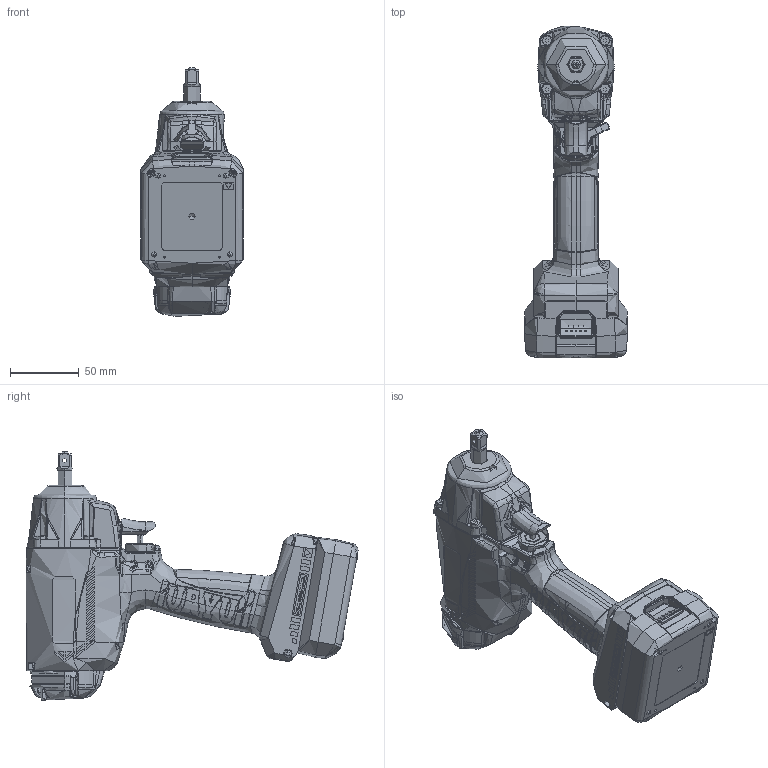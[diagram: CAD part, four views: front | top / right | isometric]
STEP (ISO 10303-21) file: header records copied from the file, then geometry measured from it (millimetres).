
FILE_DESCRIPTION (( 'STEP AP214' ), '1' );
FILE_NAME ('UBX-T50.STEP', '2023-08-18T02:51:04', ( '' ), ( '' ), 'SwSTEP 2.0', 'SolidWorks 2016', '' );
FILE_SCHEMA (( 'AUTOMOTIVE_DESIGN' ));
Length unit declared in the file: millimetre
Products named in the file (13): UBX-T50; 切換レバー_09B-212-4; UBX-T70_スイッチ基部_外観用; バッテリー_10.8V_2Ah; UBX-T70_本体L_外観用_履歴削除部品データ(T50用); バルブレバー_147-107-2; UBX-T70_主軸_外観用; フロントケースパッキン; UBX-T60フロントケース_(内径部埋める); 12F-013-0_本体上フタ_外観用; Part1^UBX-T50_外観用; UBX-T70_本体R_外観用_履歴削除部品データ; 12F-012-0_本体フタ_外観用
Assembly tree (11 placements, depth 2):
  UBX-T50
    UBX-T70_本体R_外観用_履歴削除部品データ
    UBX-T70_スイッチ基部_外観用
    バルブレバー_147-107-2
    切換レバー_09B-212-4
    UBX-T70_主軸_外観用
    12F-012-0_本体フタ_外観用
    12F-013-0_本体上フタ_外観用
    フロントケースパッキン
    UBX-T60フロントケース_(内径部埋める)
    UBX-T70_本体L_外観用_履歴削除部品データ(T50用)
    バッテリー_10.8V_2Ah
  Part1^UBX-T50_外観用
Bounding box: 74.73 x 241.07 x 180.38 mm (x, y, z)
Volume: 634658 mm3; surface area: 155671.9 mm2
Topology: 10 solids, 21 shells, 5755 faces, 15172 edges, 9600 vertices
Faces by surface type: plane 2288, cylinder 1461, bspline 1241, torus 393, cone 226, sphere 146
Entity records: 275775 total; most frequent: CARTESIAN_POINT 108313, ORIENTED_EDGE 30088, DIRECTION 22595, EDGE_CURVE 15045, VERTEX_POINT 9589, AXIS2_PLACEMENT_3D 7833, VECTOR 6929, LINE 6929
